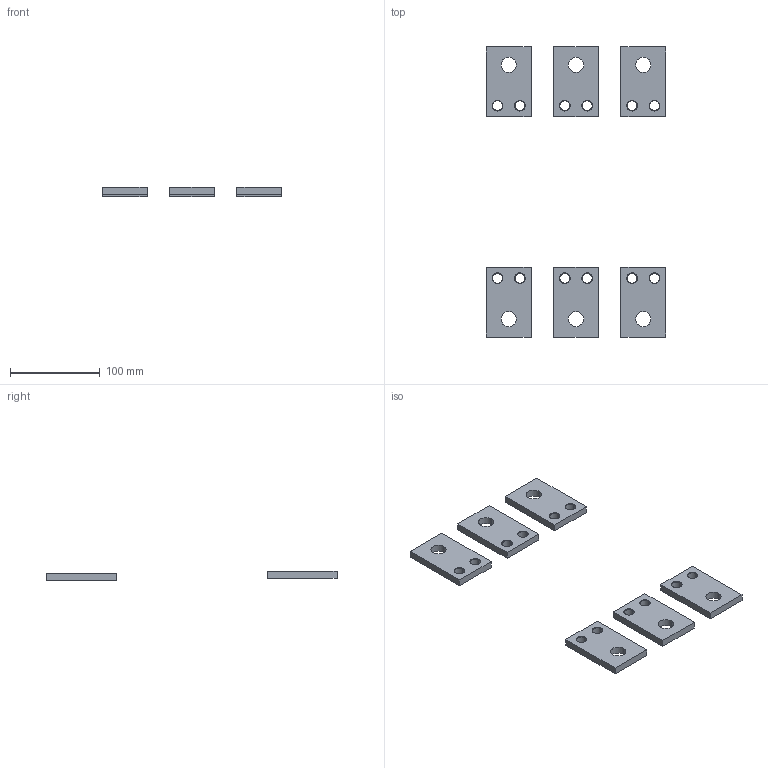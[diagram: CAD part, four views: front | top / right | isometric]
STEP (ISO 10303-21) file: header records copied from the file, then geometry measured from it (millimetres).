
FILE_DESCRIPTION (( 'STEP AP214' ), '1' );
FILE_NAME ('ÂÀ57-39 êîìïëåêò øèí (2.44).STEP', '2023-08-07T10:31:22', ( '' ), ( '' ), 'SwSTEP 2.0', 'SolidWorks 2018', '' );
FILE_SCHEMA (( 'AUTOMOTIVE_DESIGN' ));
Length unit declared in the file: millimetre
Products named in the file (1): ÂÀ57-39 êîìïëåêò øèí (2.44)
Bounding box: 200 x 323.4 x 10.44 mm (x, y, z)
Volume: 167128.4 mm3; surface area: 59846.9 mm2
Topology: 6 solids, 6 shells, 96 faces, 228 edges, 144 vertices
Faces by surface type: cylinder 36, plane 36, cone 24
Entity records: 3983 total; most frequent: DIRECTION 518, CARTESIAN_POINT 469, ORIENTED_EDGE 456, EDGE_CURVE 228, AXIS2_PLACEMENT_3D 193, VERTEX_POINT 144, EDGE_LOOP 132, LINE 132
